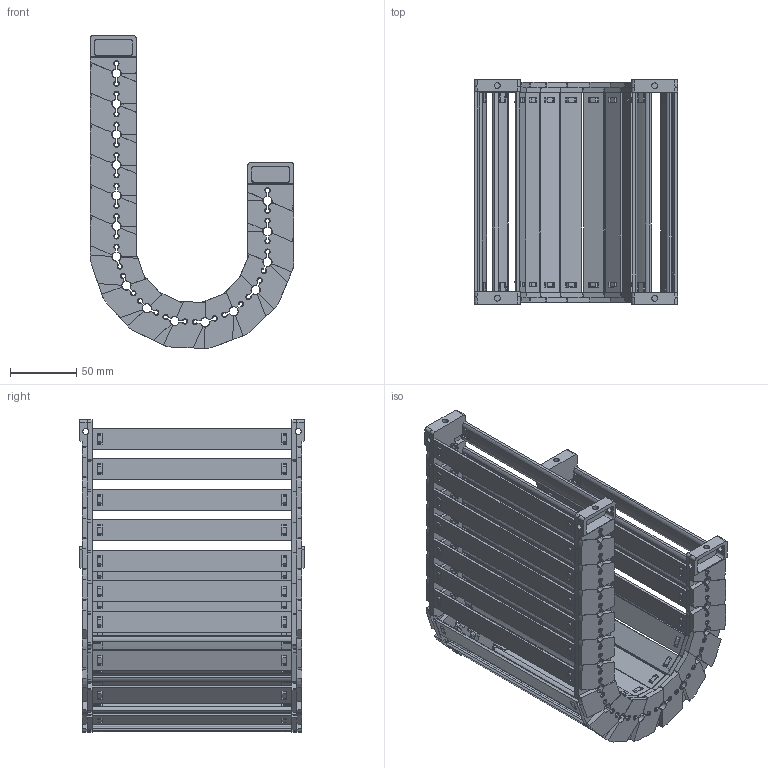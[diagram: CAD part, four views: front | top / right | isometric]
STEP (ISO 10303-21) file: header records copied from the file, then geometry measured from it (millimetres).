
FILE_DESCRIPTION((''),'2;1');
FILE_NAME('JY-28X150-R55_ASM','2026-03-26T08:07:32',('admin'),(''),'CREO PARAMETRIC BY PTC INC, 2021023','CREO PARAMETRIC BY PTC INC, 2021023','');
FILE_SCHEMA(('CONFIG_CONTROL_DESIGN'));
Length unit declared in the file: millimetre
Products named in the file (11): 28XL-L; 25-35XL-YP; 28XL-R; ASM0001_ASM; 28-LTT-A-L; 28-LTT-A-R; 28XL-LTT-A_ASM; 28-LTT-B-L; 28-LTT-B-R; 28XL-LTT-B_ASM; JY-28X150-R55_ASM
Assembly tree (29 placements, depth 3):
  JY-28X150-R55_ASM
    ASM0001_ASM  x15
      28XL-L
      25-35XL-YP
      28XL-R
    28XL-LTT-A_ASM
      28-LTT-A-L
      25-35XL-YP  x2
      28-LTT-A-R
    28XL-LTT-B_ASM
      28-LTT-B-L
      25-35XL-YP  x2
      28-LTT-B-R
Bounding box: 153.11 x 169 x 235.62 mm (x, y, z)
Volume: 435364.8 mm3; surface area: 312446.9 mm2
Topology: 68 solids, 68 shells, 5486 faces, 16300 edges, 10882 vertices
Faces by surface type: plane 3597, cone 973, cylinder 796, bspline 120
Entity records: 29071 total; most frequent: CARTESIAN_POINT 9487, ORIENTED_EDGE 4352, DIRECTION 3649, EDGE_CURVE 2176, VERTEX_POINT 1454, VECTOR 1365, LINE 1365, AXIS2_PLACEMENT_3D 1142
